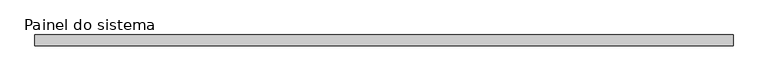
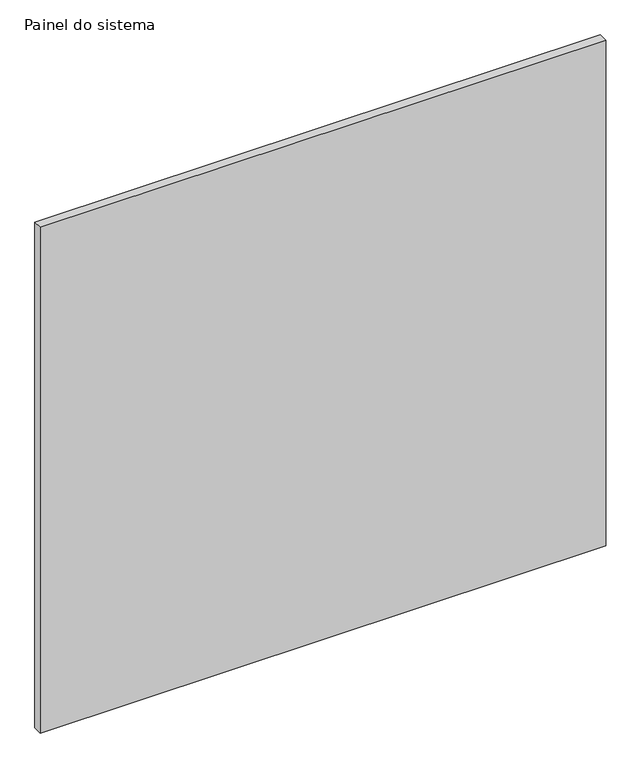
"""IFC4 building model written with IfcOpenShell, lengths in millimetres: plate geometry, Painel do sistema : Envidraçado."""

from ifc_helpers import new_model, si_unit, origin, origin_with_axes, place, context, project, spatial, polyline, outline, extrude, source, transform, mapped, element, save


def painel_do_sistema_7de0e0b4(model_context):
    return source(origin(), model_context, "Body", "SweptSolid", [
        extrude(outline(polyline([(634.5833333, -10.0), (-634.5833333, -10.0), (-634.5833333, 10.0), (634.5833333, 10.0), (634.5833333, -10.0)])), origin_with_axes(), (0.0, 0.0, 1.0), 1200.0),
    ])


if __name__ == "__main__":
    model = new_model("IFC4")
    model_context = context("Model", 3, world=origin())
    ifc_project = project(units=[si_unit("LENGTHUNIT", "METRE", prefix="MILLI")], contexts=[model_context])
    site = spatial("IfcSite", under=ifc_project)
    building = spatial("IfcBuilding", under=site)
    placement = place(None, origin())
    painel_do_sistema_shape = painel_do_sistema_7de0e0b4(model_context)
    element("IfcPlate", 1, ObjectType="Painel do sistema : Envidraçado", at=placement, inside=building, context=model_context, shape_type="MappedRepresentation", body=[
        mapped(painel_do_sistema_shape, transform((0.0, 0.0, 0.0), x_axis=(1.0, 0.0, 0.0), y_axis=(0.0, 1.0, 0.0), z_axis=(0.0, 0.0, 1.0))),
    ])
    save(model, "model.ifc")
